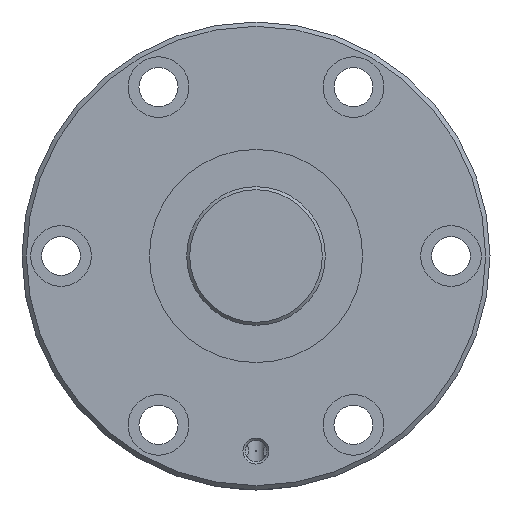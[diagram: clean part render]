
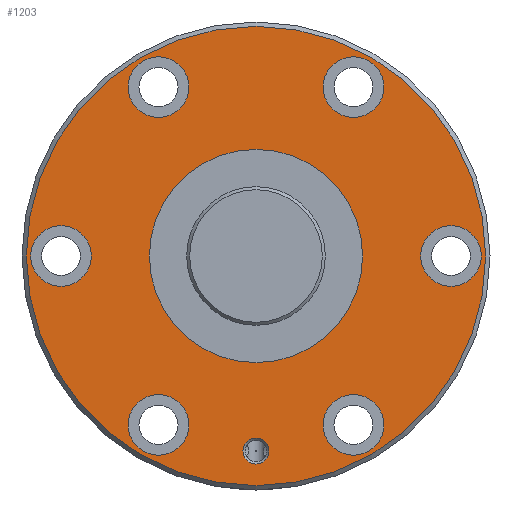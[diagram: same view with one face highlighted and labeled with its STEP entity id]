
A CAD part, left-side view. The second image highlights one B-rep face of the part: STEP entity #1203.
In plain terms, the highlighted planar face has unit normal (-1, 0, 0).
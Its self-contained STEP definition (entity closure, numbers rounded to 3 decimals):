
#266=ORIENTED_EDGE('',*,*,#551,.T.);
#267=ORIENTED_EDGE('',*,*,#552,.T.);
#268=ORIENTED_EDGE('',*,*,#553,.T.);
#269=ORIENTED_EDGE('',*,*,#554,.T.);
#270=ORIENTED_EDGE('',*,*,#555,.T.);
#271=ORIENTED_EDGE('',*,*,#556,.T.);
#272=ORIENTED_EDGE('',*,*,#557,.T.);
#273=ORIENTED_EDGE('',*,*,#558,.T.);
#274=ORIENTED_EDGE('',*,*,#550,.F.);
#550=EDGE_CURVE('',#693,#693,#766,.T.);
#551=EDGE_CURVE('',#694,#694,#767,.T.);
#552=EDGE_CURVE('',#695,#695,#768,.F.);
#553=EDGE_CURVE('',#696,#696,#769,.T.);
#554=EDGE_CURVE('',#697,#697,#770,.T.);
#555=EDGE_CURVE('',#698,#698,#771,.T.);
#556=EDGE_CURVE('',#699,#699,#772,.T.);
#557=EDGE_CURVE('',#700,#700,#773,.T.);
#558=EDGE_CURVE('',#701,#701,#774,.T.);
#693=VERTEX_POINT('',#2160);
#694=VERTEX_POINT('',#2163);
#695=VERTEX_POINT('',#2165);
#696=VERTEX_POINT('',#2167);
#697=VERTEX_POINT('',#2169);
#698=VERTEX_POINT('',#2171);
#699=VERTEX_POINT('',#2173);
#700=VERTEX_POINT('',#2175);
#701=VERTEX_POINT('',#2177);
#766=CIRCLE('',#1338,53.);
#767=CIRCLE('',#1340,24.6);
#768=CIRCLE('',#1341,7.);
#769=CIRCLE('',#1342,3.);
#770=CIRCLE('',#1343,7.);
#771=CIRCLE('',#1344,7.);
#772=CIRCLE('',#1345,7.);
#773=CIRCLE('',#1346,7.);
#774=CIRCLE('',#1347,7.);
#864=EDGE_LOOP('',(#266));
#865=EDGE_LOOP('',(#267));
#866=EDGE_LOOP('',(#268));
#867=EDGE_LOOP('',(#269));
#868=EDGE_LOOP('',(#270));
#869=EDGE_LOOP('',(#271));
#870=EDGE_LOOP('',(#272));
#871=EDGE_LOOP('',(#273));
#872=EDGE_LOOP('',(#274));
#1018=FACE_BOUND('',#864,.T.);
#1019=FACE_BOUND('',#865,.T.);
#1020=FACE_BOUND('',#866,.T.);
#1021=FACE_BOUND('',#867,.T.);
#1022=FACE_BOUND('',#868,.T.);
#1023=FACE_BOUND('',#869,.T.);
#1024=FACE_BOUND('',#870,.T.);
#1025=FACE_BOUND('',#871,.T.);
#1026=FACE_BOUND('',#872,.T.);
#1152=PLANE('',#1339);
#1203=ADVANCED_FACE('',(#1018,#1019,#1020,#1021,#1022,#1023,#1024,#1025,
#1026),#1152,.T.);
#1338=AXIS2_PLACEMENT_3D('',#2159,#1596,#1597);
#1339=AXIS2_PLACEMENT_3D('',#2161,#1598,#1599);
#1340=AXIS2_PLACEMENT_3D('',#2162,#1600,#1601);
#1341=AXIS2_PLACEMENT_3D('',#2164,#1602,#1603);
#1342=AXIS2_PLACEMENT_3D('',#2166,#1604,#1605);
#1343=AXIS2_PLACEMENT_3D('',#2168,#1606,#1607);
#1344=AXIS2_PLACEMENT_3D('',#2170,#1608,#1609);
#1345=AXIS2_PLACEMENT_3D('',#2172,#1610,#1611);
#1346=AXIS2_PLACEMENT_3D('',#2174,#1612,#1613);
#1347=AXIS2_PLACEMENT_3D('',#2176,#1614,#1615);
#1596=DIRECTION('',(1.,0.,0.));
#1597=DIRECTION('',(0.,0.,-1.));
#1598=DIRECTION('',(-1.,0.,0.));
#1599=DIRECTION('',(0.,0.,1.));
#1600=DIRECTION('',(1.,0.,0.));
#1601=DIRECTION('',(0.,0.,-1.));
#1602=DIRECTION('',(-1.,0.,0.));
#1603=DIRECTION('',(0.,0.,1.));
#1604=DIRECTION('',(1.,0.,0.));
#1605=DIRECTION('',(0.,0.,-1.));
#1606=DIRECTION('',(1.,0.,0.));
#1607=DIRECTION('',(0.,0.,-1.));
#1608=DIRECTION('',(1.,0.,0.));
#1609=DIRECTION('',(0.,0.,-1.));
#1610=DIRECTION('',(1.,0.,0.));
#1611=DIRECTION('',(0.,0.,-1.));
#1612=DIRECTION('',(1.,0.,0.));
#1613=DIRECTION('',(0.,0.,-1.));
#1614=DIRECTION('',(1.,0.,0.));
#1615=DIRECTION('',(0.,0.,-1.));
#2159=CARTESIAN_POINT('',(0.,0.,0.));
#2160=CARTESIAN_POINT('',(0.,0.,-53.));
#2161=CARTESIAN_POINT('',(0.,53.,0.));
#2162=CARTESIAN_POINT('',(0.,0.,0.));
#2163=CARTESIAN_POINT('',(0.,0.,-24.6));
#2164=CARTESIAN_POINT('',(0.,45.,0.));
#2165=CARTESIAN_POINT('',(0.,45.,7.));
#2166=CARTESIAN_POINT('',(0.,0.,-45.));
#2167=CARTESIAN_POINT('',(0.,0.,-48.));
#2168=CARTESIAN_POINT('',(0.,22.5,38.971));
#2169=CARTESIAN_POINT('',(0.,22.5,31.971));
#2170=CARTESIAN_POINT('',(0.,-22.5,-38.971));
#2171=CARTESIAN_POINT('',(0.,-22.5,-45.971));
#2172=CARTESIAN_POINT('',(0.,-22.5,38.971));
#2173=CARTESIAN_POINT('',(0.,-22.5,31.971));
#2174=CARTESIAN_POINT('',(0.,22.5,-38.971));
#2175=CARTESIAN_POINT('',(0.,22.5,-45.971));
#2176=CARTESIAN_POINT('',(0.,-45.,0.));
#2177=CARTESIAN_POINT('',(0.,-45.,-7.));
